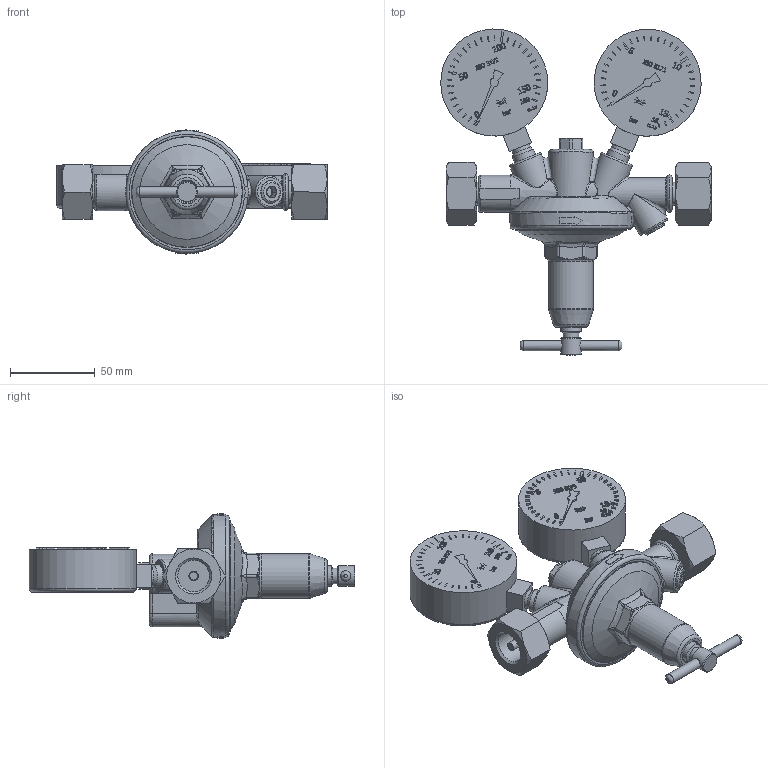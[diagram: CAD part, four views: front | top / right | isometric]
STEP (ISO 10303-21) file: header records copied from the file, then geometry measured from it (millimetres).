
FILE_DESCRIPTION(/* description */ (''),/* implementation_level */ '2;1');
FILE_NAME(/* name */ 'U:/AirCom-Produktdokumentation/Druckregler/RH/Zeichnungen/CAD-Aircom/3D/B-RH-147510.step',/* time_stamp */ '2022-02-25T10:21:30+01:00',/* author */ (''),/* organization */ (''),/* preprocessor_version */ 'ST-DEVELOPER v18.1',/* originating_system */ 'Autodesk Translation Framework v10.13.0.1454',/* authorisation */ '');
FILE_SCHEMA (('AUTOMOTIVE_DESIGN { 1 0 10303 214 3 1 1 }'));
Length unit declared in the file: millimetre
Products named in the file (1): 10752901
Bounding box: 159.11 x 191.76 x 72.98 mm (x, y, z)
Volume: 364352 mm3; surface area: 59500.8 mm2
Topology: 1 solids, 1 shells, 1618 faces, 4198 edges, 2740 vertices
Faces by surface type: plane 963, bspline 520, cylinder 68, cone 40, torus 25, sphere 2
Full cylindrical faces by diameter (mm): 0.346 x1, 0.446 x1, 1.5 x1, 6 x3, 7 x1, 9 x1, 11 x2, 12 x2, 13 x1, 13.157 x1, 13.16 x2, 13.5 x2, 15 x1, 15.1 x1, 16 x1, 16.5 x1, 18.631 x2, 18.917 x1, 19 x1, 20 x2, 26.501 x1, 63 x2, 65 x1
Entity records: 58610 total; most frequent: CARTESIAN_POINT 20830, ORIENTED_EDGE 8358, DIRECTION 5647, EDGE_CURVE 4179, VERTEX_POINT 2739, LINE 2737, VECTOR 2737, EDGE_LOOP 1792
